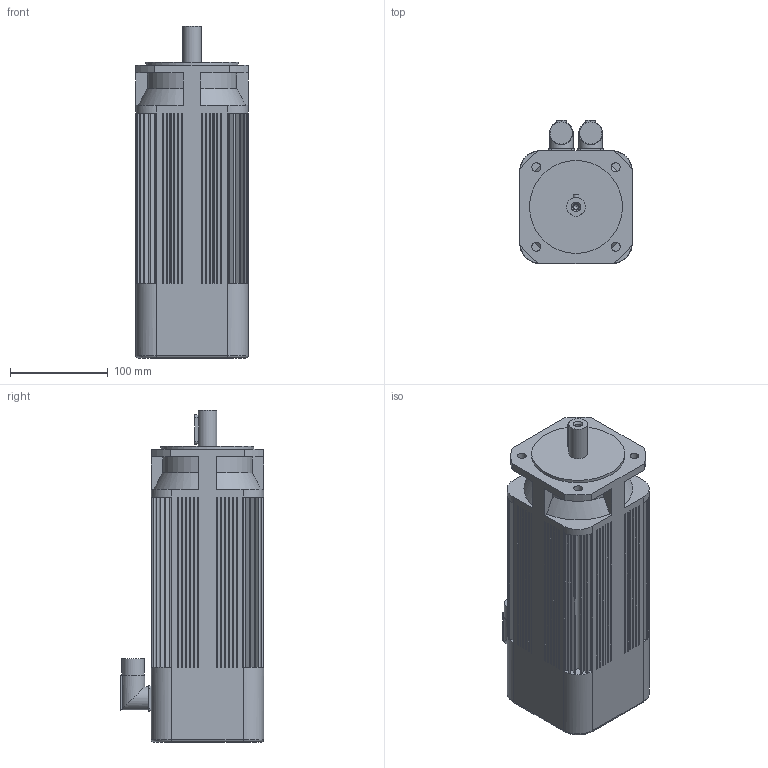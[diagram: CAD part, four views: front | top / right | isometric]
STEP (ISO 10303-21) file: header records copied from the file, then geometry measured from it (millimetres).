
FILE_DESCRIPTION(/* description */ (''),/* implementation_level */ '2;1');
FILE_NAME(/* name */ 'C:\Users\Pastrello_Ylenia\Desktop\Modelli 3D Serad\B63I\B6310Ixx6A052000--.stp',/* time_stamp */ '2015-06-12T14:46:44+02:00',/* author */ ('Pastrello_Ylenia'),/* organization */ (''),/* preprocessor_version */ 'ST-DEVELOPER v15.6',/* originating_system */ 'Autodesk Inventor 2015',/* authorisation */ '');
FILE_SCHEMA (('AUTOMOTIVE_DESIGN { 1 0 10303 214 3 1 1 }'));
Length unit declared in the file: millimetre
Products named in the file (1): B6310Ixx6A052000
Bounding box: 115 x 146.5 x 339.5 mm (x, y, z)
Volume: 3685444.4 mm3; surface area: 215369.3 mm2
Topology: 1 solids, 1 shells, 451 faces, 1104 edges, 712 vertices
Faces by surface type: plane 352, cylinder 88, cone 7, torus 4
Full cylindrical faces by diameter (mm): 4.917 x1, 6.4 x1, 9 x4, 19 x1, 22.7 x2, 24 x2, 95 x1
Entity records: 13128 total; most frequent: CARTESIAN_POINT 2294, DIRECTION 2278, ORIENTED_EDGE 2168, EDGE_CURVE 1084, LINE 774, VECTOR 774, AXIS2_PLACEMENT_3D 752, VERTEX_POINT 708
